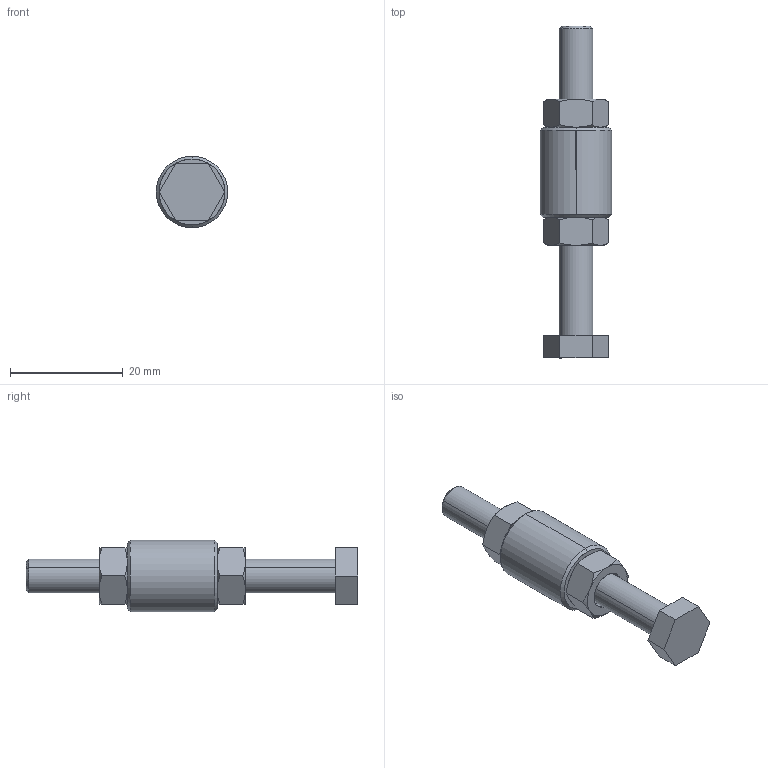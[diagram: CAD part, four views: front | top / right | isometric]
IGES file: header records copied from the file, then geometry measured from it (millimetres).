
Start section: SolidWorks IGES file using analytic representation for surfaces
Global section: file name: C:\Projetos\Ponteiras\PSB\PSB-M6.IGS; native system: SolidWorks 2011; preprocessor: SolidWorks 2011; author: Usuario; date: 110520.162745; units: millimetre
Bounding box: 12.7 x 59 x 12.7 mm (x, y, z)
Surface area: 3192.3 mm2 (no closed solid volume)
Topology: 0 solids, 0 shells, 79 faces, 948 edges, 948 vertices
Faces by surface type: revolution 52, bspline 27
